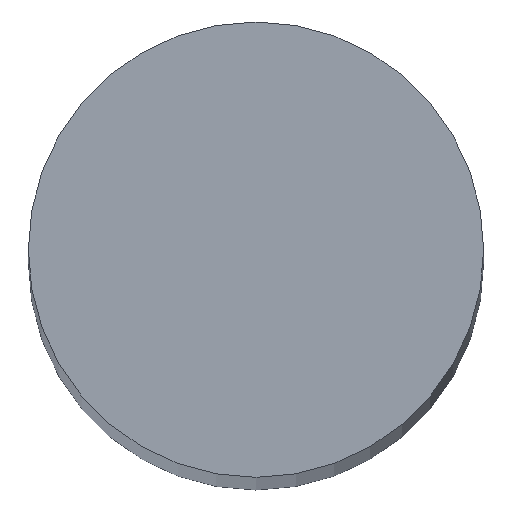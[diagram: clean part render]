
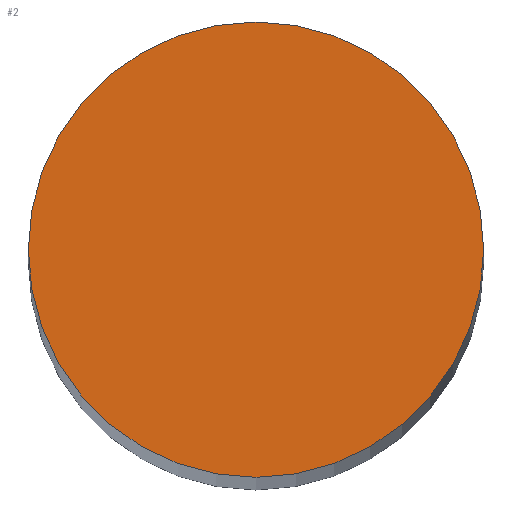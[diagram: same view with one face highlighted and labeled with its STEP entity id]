
A CAD part, top view. The second image highlights one B-rep face of the part: STEP entity #2.
In plain terms, the highlighted planar face has unit normal (0, 0, 1).
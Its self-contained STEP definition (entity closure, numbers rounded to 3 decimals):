
#2 = ADVANCED_FACE ( 'NONE', ( #79 ), #14, .T. ) ;
#5 = VERTEX_POINT ( 'NONE', #19 ) ;
#8 = VERTEX_POINT ( 'NONE', #18 ) ;
#13 = CARTESIAN_POINT ( 'NONE',  ( 0., 0., 95.5 ) ) ;
#14 = PLANE ( 'NONE',  #132 ) ;
#16 = DIRECTION ( 'NONE',  ( 0., 0., 1. ) ) ;
#17 = DIRECTION ( 'NONE',  ( 1., 0., 0. ) ) ;
#18 = CARTESIAN_POINT ( 'NONE',  ( -6., 0., 95.5 ) ) ;
#19 = CARTESIAN_POINT ( 'NONE',  ( 6., 0., 95.5 ) ) ;
#34 = CARTESIAN_POINT ( 'NONE',  ( 0., 0., 95.5 ) ) ;
#40 = DIRECTION ( 'NONE',  ( 0., 0., 1. ) ) ;
#41 = DIRECTION ( 'NONE',  ( 1., 0., 0. ) ) ;
#42 = CARTESIAN_POINT ( 'NONE',  ( 0., 0., 95.5 ) ) ;
#44 = DIRECTION ( 'NONE',  ( 0., 0., 1. ) ) ;
#45 = DIRECTION ( 'NONE',  ( 1., 0., 0. ) ) ;
#76 = EDGE_LOOP ( 'NONE', ( #90, #89 ) ) ;
#79 = FACE_OUTER_BOUND ( 'NONE', #76, .T. ) ;
#89 = ORIENTED_EDGE ( 'NONE', *, *, #121, .T. ) ;
#90 = ORIENTED_EDGE ( 'NONE', *, *, #122, .T. ) ;
#104 = CIRCLE ( 'NONE', #131, 6. ) ;
#105 = CIRCLE ( 'NONE', #133, 6. ) ;
#121 = EDGE_CURVE ( 'NONE', #5, #8, #104, .T. ) ;
#122 = EDGE_CURVE ( 'NONE', #8, #5, #105, .T. ) ;
#131 = AXIS2_PLACEMENT_3D ( 'NONE', #34, #40, #41 ) ;
#132 = AXIS2_PLACEMENT_3D ( 'NONE', #13, #16, #17 ) ;
#133 = AXIS2_PLACEMENT_3D ( 'NONE', #42, #44, #45 ) ;
